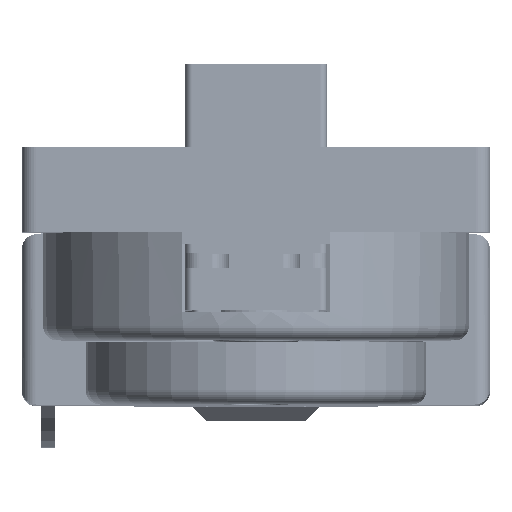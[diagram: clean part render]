
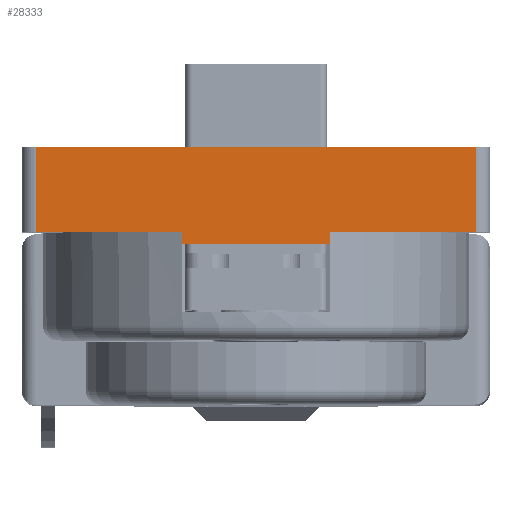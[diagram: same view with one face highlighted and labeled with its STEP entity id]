
A CAD part, top view. The second image highlights one B-rep face of the part: STEP entity #28333.
In plain terms, the highlighted planar face has unit normal (0, 0, 1).
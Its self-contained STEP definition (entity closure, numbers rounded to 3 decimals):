
#548=PLANE('',#30384);
#2059=FACE_OUTER_BOUND('',#3710,.T.);
#3710=EDGE_LOOP('',(#25046,#25047,#25048,#25049,#25050,#25051,#25052,#25053));
#7972=LINE('',#106786,#9630);
#7976=LINE('',#106802,#9634);
#7982=LINE('',#106824,#9640);
#7987=LINE('',#106833,#9645);
#7989=LINE('',#106836,#9647);
#8019=LINE('',#106917,#9677);
#8020=LINE('',#106919,#9678);
#8021=LINE('',#106920,#9679);
#9630=VECTOR('',#35537,10.);
#9634=VECTOR('',#35549,10.);
#9640=VECTOR('',#35567,10.);
#9645=VECTOR('',#35574,10.);
#9647=VECTOR('',#35578,10.);
#9677=VECTOR('',#35672,10.);
#9678=VECTOR('',#35673,10.);
#9679=VECTOR('',#35674,10.);
#12429=VERTEX_POINT('',#106783);
#12430=VERTEX_POINT('',#106785);
#12437=VERTEX_POINT('',#106799);
#12438=VERTEX_POINT('',#106801);
#12448=VERTEX_POINT('',#106823);
#12451=VERTEX_POINT('',#106831);
#12470=VERTEX_POINT('',#106916);
#12471=VERTEX_POINT('',#106918);
#16641=EDGE_CURVE('',#12429,#12430,#7972,.T.);
#16649=EDGE_CURVE('',#12437,#12438,#7976,.T.);
#16660=EDGE_CURVE('',#12438,#12448,#7982,.T.);
#16665=EDGE_CURVE('',#12429,#12451,#7987,.T.);
#16667=EDGE_CURVE('',#12448,#12451,#7989,.T.);
#16707=EDGE_CURVE('',#12437,#12470,#8019,.T.);
#16708=EDGE_CURVE('',#12471,#12470,#8020,.T.);
#16709=EDGE_CURVE('',#12430,#12471,#8021,.T.);
#25046=ORIENTED_EDGE('',*,*,#16649,.F.);
#25047=ORIENTED_EDGE('',*,*,#16707,.T.);
#25048=ORIENTED_EDGE('',*,*,#16708,.F.);
#25049=ORIENTED_EDGE('',*,*,#16709,.F.);
#25050=ORIENTED_EDGE('',*,*,#16641,.F.);
#25051=ORIENTED_EDGE('',*,*,#16665,.T.);
#25052=ORIENTED_EDGE('',*,*,#16667,.F.);
#25053=ORIENTED_EDGE('',*,*,#16660,.F.);
#28333=ADVANCED_FACE('',(#2059),#548,.T.);
#30384=AXIS2_PLACEMENT_3D('',#106915,#35670,#35671);
#35537=DIRECTION('',(-1.,0.,0.));
#35549=DIRECTION('',(-1.,0.,0.));
#35567=DIRECTION('',(0.,-1.,0.));
#35574=DIRECTION('',(0.,-1.,0.));
#35578=DIRECTION('',(-1.,0.,0.));
#35670=DIRECTION('center_axis',(0.,0.,1.));
#35671=DIRECTION('ref_axis',(1.,0.,0.));
#35672=DIRECTION('',(0.,1.,0.));
#35673=DIRECTION('',(1.,0.,0.));
#35674=DIRECTION('',(0.,1.,0.));
#106783=CARTESIAN_POINT('',(-10.5,12.2,227.55));
#106785=CARTESIAN_POINT('',(-31.,12.2,227.55));
#106786=CARTESIAN_POINT('',(31.,12.2,227.55));
#106799=CARTESIAN_POINT('',(31.,12.2,227.55));
#106801=CARTESIAN_POINT('',(10.5,12.2,227.55));
#106802=CARTESIAN_POINT('',(31.,12.2,227.55));
#106823=CARTESIAN_POINT('',(10.5,10.6,227.55));
#106824=CARTESIAN_POINT('',(10.5,12.2,227.55));
#106831=CARTESIAN_POINT('',(-10.5,10.6,227.55));
#106833=CARTESIAN_POINT('',(-10.5,12.2,227.55));
#106836=CARTESIAN_POINT('',(10.5,10.6,227.55));
#106915=CARTESIAN_POINT('Origin',(-31.,12.2,227.55));
#106916=CARTESIAN_POINT('',(31.,24.2,227.55));
#106917=CARTESIAN_POINT('',(31.,12.2,227.55));
#106918=CARTESIAN_POINT('',(-31.,24.2,227.55));
#106919=CARTESIAN_POINT('',(31.,24.2,227.55));
#106920=CARTESIAN_POINT('',(-31.,12.2,227.55));
